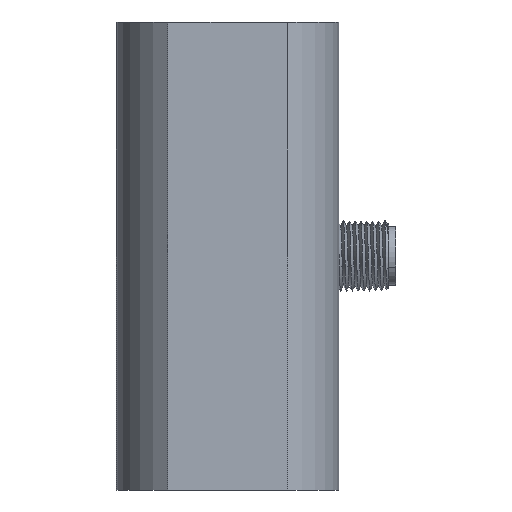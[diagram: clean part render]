
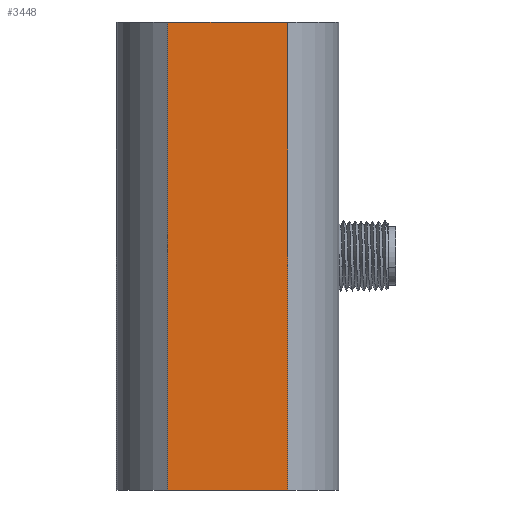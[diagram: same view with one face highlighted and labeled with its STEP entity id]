
A CAD part, front view. The second image highlights one B-rep face of the part: STEP entity #3448.
In plain terms, the highlighted planar face has unit normal (0, -1, 0).
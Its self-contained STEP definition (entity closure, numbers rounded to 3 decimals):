
#3448=ADVANCED_FACE('',(#4348),#3730,.F.);
#3730=PLANE('',#15046);
#4348=FACE_OUTER_BOUND('',#5168,.T.);
#5168=EDGE_LOOP('',(#9336,#9337,#9338,#9339));
#9336=ORIENTED_EDGE('',*,*,#12350,.F.);
#9337=ORIENTED_EDGE('',*,*,#12322,.T.);
#9338=ORIENTED_EDGE('',*,*,#12351,.F.);
#9339=ORIENTED_EDGE('',*,*,#12336,.F.);
#10565=VERTEX_POINT('',#31301);
#10566=VERTEX_POINT('',#31302);
#10578=VERTEX_POINT('',#31849);
#10580=VERTEX_POINT('',#31852);
#12322=EDGE_CURVE('',#10565,#10566,#13187,.T.);
#12336=EDGE_CURVE('',#10578,#10580,#13190,.T.);
#12350=EDGE_CURVE('',#10565,#10578,#13195,.T.);
#12351=EDGE_CURVE('',#10580,#10566,#13196,.T.);
#13187=LINE('',#31300,#14148);
#13190=LINE('',#31851,#14151);
#13195=LINE('',#31890,#14156);
#13196=LINE('',#31891,#14157);
#14148=VECTOR('',#17747,1.);
#14151=VECTOR('',#17768,1.);
#14156=VECTOR('',#17789,1.);
#14157=VECTOR('',#17790,1.);
#15046=AXIS2_PLACEMENT_3D('',#31892,#17791,#17792);
#17747=DIRECTION('',(-1.,0.,0.));
#17768=DIRECTION('',(-1.,0.,0.));
#17789=DIRECTION('',(0.,0.,-1.));
#17790=DIRECTION('',(0.,0.,1.));
#17791=DIRECTION('',(0.,1.,0.));
#17792=DIRECTION('',(-1.,0.,0.));
#31300=CARTESIAN_POINT('',(-0.016,-17.,183.));
#31301=CARTESIAN_POINT('',(10.231,-17.,183.));
#31302=CARTESIAN_POINT('',(-10.263,-17.,183.));
#31849=CARTESIAN_POINT('',(10.231,-17.,103.));
#31851=CARTESIAN_POINT('',(-0.016,-17.,103.));
#31852=CARTESIAN_POINT('',(-10.263,-17.,103.));
#31890=CARTESIAN_POINT('',(10.231,-17.,99.));
#31891=CARTESIAN_POINT('',(-10.263,-17.,99.));
#31892=CARTESIAN_POINT('',(-0.016,-17.,143.));
